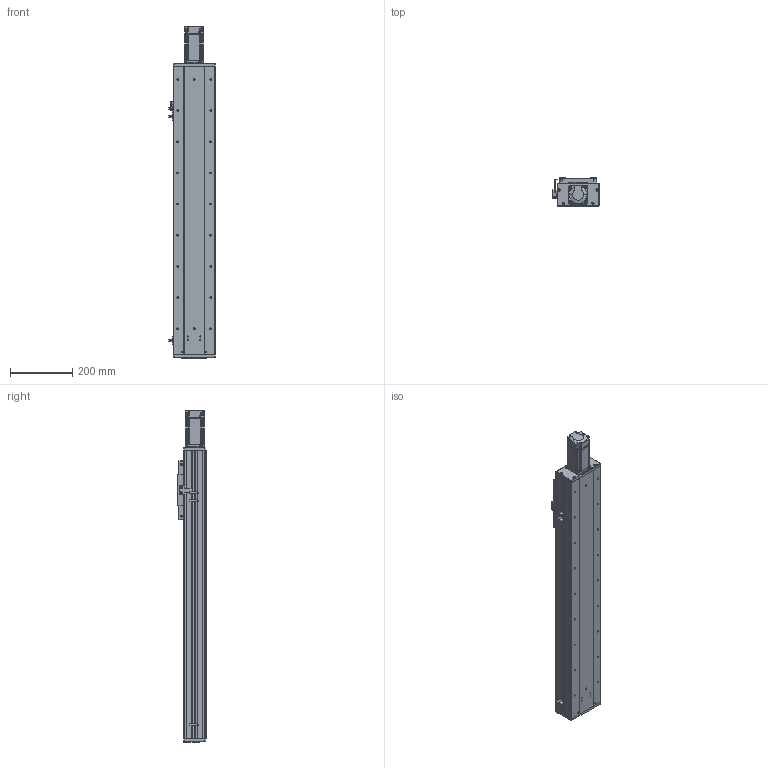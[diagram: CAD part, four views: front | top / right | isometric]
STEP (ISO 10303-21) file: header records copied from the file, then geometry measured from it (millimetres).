
FILE_DESCRIPTION (( 'STEP AP203' ), '1' );
FILE_NAME ('RY140F-L2020-300-MK.SLDASM_650.step', '2021-03-02T06:24:04', ( '盈信电脑' ), ( '东莞市道滘镇水果街19号' ), 'SwSTEP 2.0', 'SolidWorks 2012', '' );
FILE_SCHEMA (( 'CONFIG_CONTROL_DESIGN' ));
Length unit declared in the file: millimetre
Products named in the file (18): RY140F-直连型材铝滑块(16丝杆); RY140F-直连前盖板(铝件）; RY100F-詩湍揤踡謫; RY140F-后盖板(铝件）; RY140F-滅鳥奻裔; RY140F-直连型材铝滑块连接座; RY140F-300-MK眻蟀詩湍_650; RY140F-詩湍幗謫粣; RY140F-300-MK眻蟀倰第菁釱_650; RY140F-300-MK眻蟀倰第奻裔啣_650; 覜茼ん672; 侂狟400W侜督萇儂; 15; RY140F-672覜茼んえ; 侐源滅袉蝶; 滅袉蝶18-10; RY140F-L2020-300-MK.SLDASM_650; RY140F-詩湍揤え
Assembly tree (22 placements, depth 3):
  RY140F-L2020-300-MK.SLDASM_650
    RY140F-300-MK眻蟀倰第菁釱_650
    RY140F-300-MK眻蟀倰第奻裔啣_650  x2
    RY140F-300-MK眻蟀詩湍_650
    RY140F-直连型材铝滑块连接座
    RY140F-滅鳥奻裔
    RY140F-詩湍幗謫粣
    RY100F-詩湍揤踡謫
    RY140F-直连型材铝滑块(16丝杆)
    RY140F-直连前盖板(铝件）
    RY140F-后盖板(铝件）
    侂狟400W侜督萇儂
      15
    覜茼ん672  x3
    RY140F-672覜茼んえ
    RY140F-詩湍揤え  x2
    滅袉蝶18-10
    侐源滅袉蝶  x2
Bounding box: 148.7 x 91 x 1065.5 mm (x, y, z)
Volume: 3717636.5 mm3; surface area: 1276173.9 mm2
Topology: 21 solids, 21 shells, 1948 faces, 5361 edges, 3438 vertices
Faces by surface type: cylinder 886, plane 854, cone 186, bspline 18, torus 4
Entity records: 56474 total; most frequent: CARTESIAN_POINT 11339, DIRECTION 9204, ORIENTED_EDGE 8854, EDGE_CURVE 4427, AXIS2_PLACEMENT_3D 3291, VERTEX_POINT 2906, LINE 2622, VECTOR 2622
